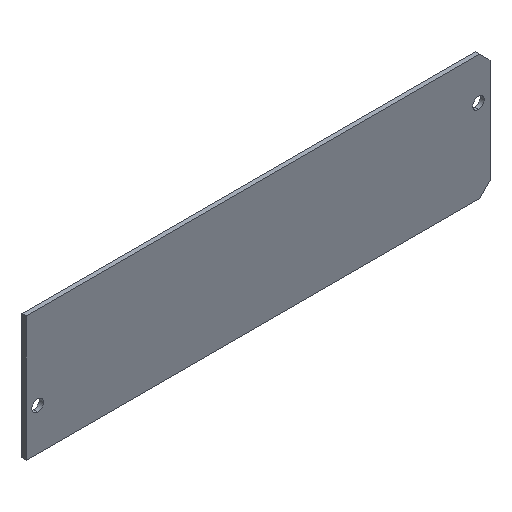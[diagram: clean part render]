
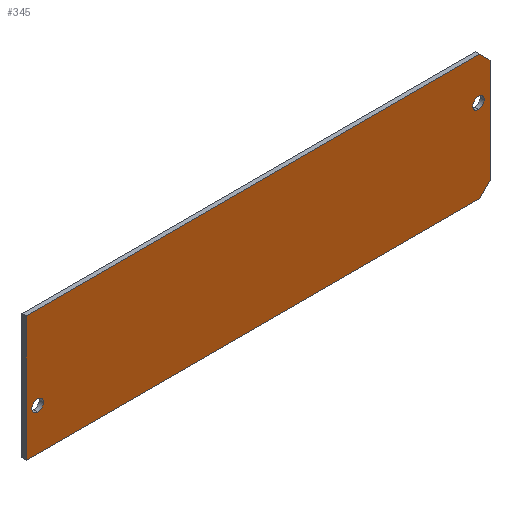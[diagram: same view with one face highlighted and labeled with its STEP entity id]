
A CAD part, isometric view. The second image highlights one B-rep face of the part: STEP entity #345.
In plain terms, the highlighted planar face has unit normal (0, -1, 0).
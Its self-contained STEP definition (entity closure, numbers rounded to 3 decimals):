
#1 = VECTOR ( 'NONE', #239, 1000. ) ;
#12 = CARTESIAN_POINT ( 'NONE',  ( 89., 0., -22. ) ) ;
#16 = AXIS2_PLACEMENT_3D ( 'NONE', #51, #311, #288 ) ;
#20 = ORIENTED_EDGE ( 'NONE', *, *, #230, .T. ) ;
#32 = CIRCLE ( 'NONE', #333, 1.1 ) ;
#35 = CARTESIAN_POINT ( 'NONE',  ( 0., 0., -24. ) ) ;
#36 = EDGE_CURVE ( 'NONE', #40, #332, #400, .T. ) ;
#40 = VERTEX_POINT ( 'NONE', #180 ) ;
#45 = DIRECTION ( 'NONE',  ( 0., 0., -1. ) ) ;
#50 = ORIENTED_EDGE ( 'NONE', *, *, #36, .F. ) ;
#51 = CARTESIAN_POINT ( 'NONE',  ( 2.2, 0., -16. ) ) ;
#54 = DIRECTION ( 'NONE',  ( 0.707, 0., 0.707 ) ) ;
#61 = ORIENTED_EDGE ( 'NONE', *, *, #65, .T. ) ;
#64 = DIRECTION ( 'NONE',  ( 1., 0., 0. ) ) ;
#65 = EDGE_CURVE ( 'NONE', #131, #332, #274, .T. ) ;
#67 = CARTESIAN_POINT ( 'NONE',  ( 86.8, 0., -6.9 ) ) ;
#71 = CARTESIAN_POINT ( 'NONE',  ( 2.2, 0., -17.1 ) ) ;
#74 = VERTEX_POINT ( 'NONE', #154 ) ;
#88 = EDGE_CURVE ( 'NONE', #136, #189, #296, .T. ) ;
#93 = ORIENTED_EDGE ( 'NONE', *, *, #98, .F. ) ;
#96 = DIRECTION ( 'NONE',  ( 0., 0., -1. ) ) ;
#98 = EDGE_CURVE ( 'NONE', #390, #182, #216, .T. ) ;
#100 = CARTESIAN_POINT ( 'NONE',  ( 86.8, 0., -8. ) ) ;
#102 = CARTESIAN_POINT ( 'NONE',  ( 43.5, 0., 43.5 ) ) ;
#104 = LINE ( 'NONE', #35, #406 ) ;
#110 = FACE_OUTER_BOUND ( 'NONE', #138, .T. ) ;
#111 = CARTESIAN_POINT ( 'NONE',  ( 89., 0., 0. ) ) ;
#127 = CARTESIAN_POINT ( 'NONE',  ( 87., 0., -24. ) ) ;
#128 = CARTESIAN_POINT ( 'NONE',  ( 2.2, 0., -14.9 ) ) ;
#131 = VERTEX_POINT ( 'NONE', #127 ) ;
#136 = VERTEX_POINT ( 'NONE', #128 ) ;
#138 = EDGE_LOOP ( 'NONE', ( #50, #20, #93, #380, #156, #61 ) ) ;
#140 = CARTESIAN_POINT ( 'NONE',  ( 2.2, 0., -16. ) ) ;
#145 = EDGE_CURVE ( 'NONE', #171, #202, #32, .T. ) ;
#148 = CARTESIAN_POINT ( 'NONE',  ( 0., 0., 0. ) ) ;
#149 = CARTESIAN_POINT ( 'NONE',  ( 0., 0., 0. ) ) ;
#150 = AXIS2_PLACEMENT_3D ( 'NONE', #149, #236, #371 ) ;
#154 = CARTESIAN_POINT ( 'NONE',  ( 0., 0., -24. ) ) ;
#156 = ORIENTED_EDGE ( 'NONE', *, *, #219, .F. ) ;
#159 = VECTOR ( 'NONE', #54, 1000. ) ;
#164 = VECTOR ( 'NONE', #302, 1000. ) ;
#171 = VERTEX_POINT ( 'NONE', #195 ) ;
#178 = VECTOR ( 'NONE', #64, 1000. ) ;
#180 = CARTESIAN_POINT ( 'NONE',  ( 89., 0., -2. ) ) ;
#181 = DIRECTION ( 'NONE',  ( 0., -1., 0. ) ) ;
#182 = VERTEX_POINT ( 'NONE', #233 ) ;
#187 = ORIENTED_EDGE ( 'NONE', *, *, #277, .F. ) ;
#189 = VERTEX_POINT ( 'NONE', #71 ) ;
#194 = CIRCLE ( 'NONE', #382, 1.1 ) ;
#195 = CARTESIAN_POINT ( 'NONE',  ( 86.8, 0., -9.1 ) ) ;
#202 = VERTEX_POINT ( 'NONE', #67 ) ;
#205 = LINE ( 'NONE', #362, #164 ) ;
#209 = PLANE ( 'NONE',  #150 ) ;
#213 = DIRECTION ( 'NONE',  ( 0., -1., 0. ) ) ;
#216 = LINE ( 'NONE', #148, #178 ) ;
#219 = EDGE_CURVE ( 'NONE', #131, #74, #104, .T. ) ;
#227 = AXIS2_PLACEMENT_3D ( 'NONE', #273, #213, #45 ) ;
#229 = EDGE_LOOP ( 'NONE', ( #358, #307 ) ) ;
#230 = EDGE_CURVE ( 'NONE', #40, #182, #391, .T. ) ;
#231 = DIRECTION ( 'NONE',  ( -0.707, 0., 0.707 ) ) ;
#233 = CARTESIAN_POINT ( 'NONE',  ( 87., 0., 0. ) ) ;
#236 = DIRECTION ( 'NONE',  ( 0., -1., 0. ) ) ;
#239 = DIRECTION ( 'NONE',  ( 0., 0., -1. ) ) ;
#243 = FACE_BOUND ( 'NONE', #229, .T. ) ;
#273 = CARTESIAN_POINT ( 'NONE',  ( 86.8, 0., -8. ) ) ;
#274 = LINE ( 'NONE', #308, #159 ) ;
#277 = EDGE_CURVE ( 'NONE', #202, #171, #341, .T. ) ;
#288 = DIRECTION ( 'NONE',  ( 0., 0., -1. ) ) ;
#295 = DIRECTION ( 'NONE',  ( -1., 0., 0. ) ) ;
#296 = CIRCLE ( 'NONE', #16, 1.1 ) ;
#297 = ORIENTED_EDGE ( 'NONE', *, *, #145, .F. ) ;
#300 = CARTESIAN_POINT ( 'NONE',  ( 0., 0., 0. ) ) ;
#302 = DIRECTION ( 'NONE',  ( 0., 0., 1. ) ) ;
#307 = ORIENTED_EDGE ( 'NONE', *, *, #381, .F. ) ;
#308 = CARTESIAN_POINT ( 'NONE',  ( 55.5, 0., -55.5 ) ) ;
#311 = DIRECTION ( 'NONE',  ( 0., -1., 0. ) ) ;
#332 = VERTEX_POINT ( 'NONE', #12 ) ;
#333 = AXIS2_PLACEMENT_3D ( 'NONE', #100, #353, #96 ) ;
#341 = CIRCLE ( 'NONE', #227, 1.1 ) ;
#345 = ADVANCED_FACE ( 'NONE', ( #396, #243, #110 ), #209, .T. ) ;
#353 = DIRECTION ( 'NONE',  ( 0., -1., 0. ) ) ;
#358 = ORIENTED_EDGE ( 'NONE', *, *, #88, .F. ) ;
#360 = VECTOR ( 'NONE', #231, 1000. ) ;
#362 = CARTESIAN_POINT ( 'NONE',  ( 0., 0., 0. ) ) ;
#364 = EDGE_CURVE ( 'NONE', #74, #390, #205, .T. ) ;
#371 = DIRECTION ( 'NONE',  ( 0., 0., -1. ) ) ;
#380 = ORIENTED_EDGE ( 'NONE', *, *, #364, .F. ) ;
#381 = EDGE_CURVE ( 'NONE', #189, #136, #194, .T. ) ;
#382 = AXIS2_PLACEMENT_3D ( 'NONE', #140, #181, #399 ) ;
#390 = VERTEX_POINT ( 'NONE', #300 ) ;
#391 = LINE ( 'NONE', #102, #360 ) ;
#396 = FACE_BOUND ( 'NONE', #404, .T. ) ;
#399 = DIRECTION ( 'NONE',  ( 0., 0., -1. ) ) ;
#400 = LINE ( 'NONE', #111, #1 ) ;
#404 = EDGE_LOOP ( 'NONE', ( #187, #297 ) ) ;
#406 = VECTOR ( 'NONE', #295, 1000. ) ;
